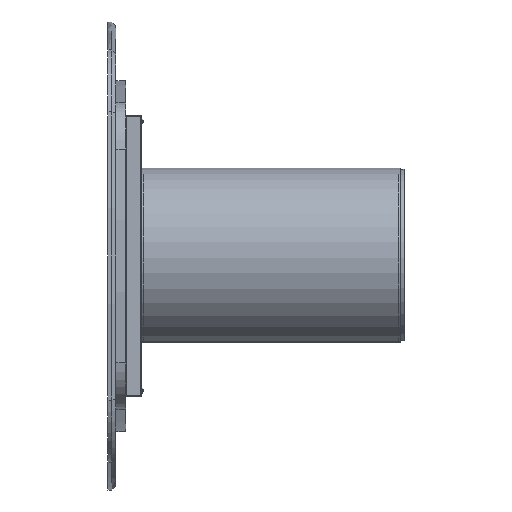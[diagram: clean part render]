
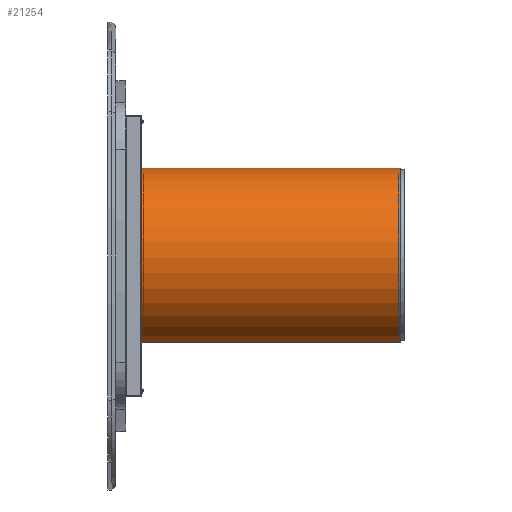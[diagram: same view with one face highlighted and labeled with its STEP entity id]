
A CAD part, left-side view. The second image highlights one B-rep face of the part: STEP entity #21254.
In plain terms, the highlighted cylindrical face has radius 230 mm (diameter 460 mm), a partial arc.
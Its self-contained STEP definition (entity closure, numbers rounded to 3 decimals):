
#428 = ORIENTED_EDGE ( 'NONE', *, *, #10326, .T. ) ;
#1159 = CARTESIAN_POINT ( 'NONE',  ( 2., 665., 0. ) ) ;
#1189 = CYLINDRICAL_SURFACE ( 'NONE', #1211, 230. ) ;
#1211 = AXIS2_PLACEMENT_3D ( 'NONE', #10030, #11735, #1299 ) ;
#1299 = DIRECTION ( 'NONE',  ( 0., 0., -1. ) ) ;
#2167 = CARTESIAN_POINT ( 'NONE',  ( 2., 0., -230. ) ) ;
#2206 = ORIENTED_EDGE ( 'NONE', *, *, #21164, .T. ) ;
#2833 = ORIENTED_EDGE ( 'NONE', *, *, #17986, .F. ) ;
#3428 = DIRECTION ( 'NONE',  ( 0., 1., 0. ) ) ;
#4083 = VECTOR ( 'NONE', #14285, 1000. ) ;
#4289 = EDGE_CURVE ( 'NONE', #16598, #18186, #7277, .T. ) ;
#4383 = LINE ( 'NONE', #9674, #7428 ) ;
#5175 = CARTESIAN_POINT ( 'NONE',  ( 2., 665., 230. ) ) ;
#5247 = CARTESIAN_POINT ( 'NONE',  ( 2., 0., 0. ) ) ;
#6596 = VERTEX_POINT ( 'NONE', #5175 ) ;
#7277 = LINE ( 'NONE', #20987, #4083 ) ;
#7397 = CIRCLE ( 'NONE', #14730, 230. ) ;
#7428 = VECTOR ( 'NONE', #22126, 1000. ) ;
#7714 = AXIS2_PLACEMENT_3D ( 'NONE', #1159, #8151, #10001 ) ;
#8018 = CARTESIAN_POINT ( 'NONE',  ( 2., 665., -230. ) ) ;
#8151 = DIRECTION ( 'NONE',  ( 0., 1., 0. ) ) ;
#9427 = ORIENTED_EDGE ( 'NONE', *, *, #4289, .F. ) ;
#9674 = CARTESIAN_POINT ( 'NONE',  ( 2., 665., 230. ) ) ;
#10001 = DIRECTION ( 'NONE',  ( 0., 0., 1. ) ) ;
#10030 = CARTESIAN_POINT ( 'NONE',  ( 2., 665., 0. ) ) ;
#10326 = EDGE_CURVE ( 'NONE', #11111, #18186, #7397, .T. ) ;
#10427 = DIRECTION ( 'NONE',  ( 0., 0., 1. ) ) ;
#11111 = VERTEX_POINT ( 'NONE', #19538 ) ;
#11534 = EDGE_LOOP ( 'NONE', ( #428, #9427, #2833, #2206 ) ) ;
#11735 = DIRECTION ( 'NONE',  ( 0., -1., 0. ) ) ;
#13212 = CIRCLE ( 'NONE', #7714, 230. ) ;
#14285 = DIRECTION ( 'NONE',  ( 0., -1., 0. ) ) ;
#14730 = AXIS2_PLACEMENT_3D ( 'NONE', #5247, #3428, #10427 ) ;
#15072 = FACE_OUTER_BOUND ( 'NONE', #11534, .T. ) ;
#16598 = VERTEX_POINT ( 'NONE', #8018 ) ;
#17986 = EDGE_CURVE ( 'NONE', #6596, #16598, #13212, .T. ) ;
#18186 = VERTEX_POINT ( 'NONE', #2167 ) ;
#19538 = CARTESIAN_POINT ( 'NONE',  ( 2., 0., 230. ) ) ;
#20987 = CARTESIAN_POINT ( 'NONE',  ( 2., 665., -230. ) ) ;
#21164 = EDGE_CURVE ( 'NONE', #6596, #11111, #4383, .T. ) ;
#21254 = ADVANCED_FACE ( 'NONE', ( #15072 ), #1189, .T. ) ;
#22126 = DIRECTION ( 'NONE',  ( 0., -1., 0. ) ) ;
